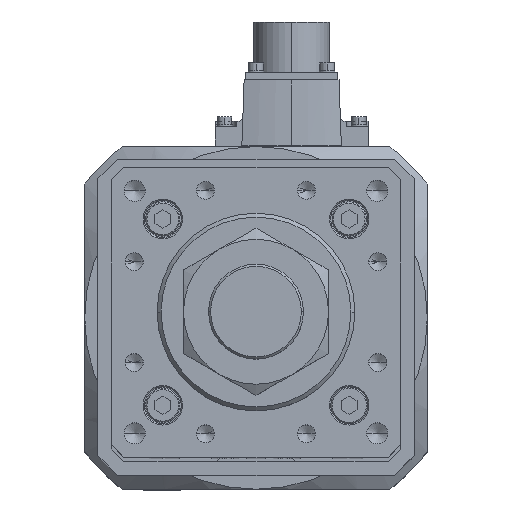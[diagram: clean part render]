
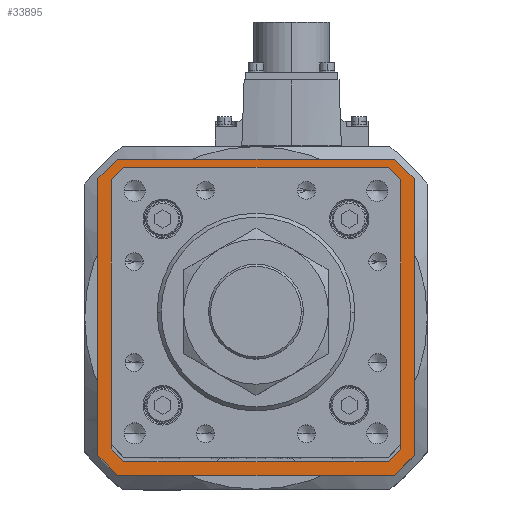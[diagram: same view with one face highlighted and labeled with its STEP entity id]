
A CAD part, top view. The second image highlights one B-rep face of the part: STEP entity #33895.
In plain terms, the highlighted planar face has unit normal (0, 0, 1).
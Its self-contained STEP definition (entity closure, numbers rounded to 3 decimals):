
#10 = CARTESIAN_POINT ( 'NONE',  ( -52.5, -60., -119. ) ) ;
#185 = CARTESIAN_POINT ( 'NONE',  ( 60., 52.5, -119. ) ) ;
#231 = VECTOR ( 'NONE', #893, 1000. ) ;
#893 = DIRECTION ( 'NONE',  ( 0., -1., 0. ) ) ;
#1389 = ORIENTED_EDGE ( 'NONE', *, *, #27819, .F. ) ;
#1401 = VECTOR ( 'NONE', #16453, 1000. ) ;
#1575 = ORIENTED_EDGE ( 'NONE', *, *, #20521, .T. ) ;
#1604 = VERTEX_POINT ( 'NONE', #18039 ) ;
#1804 = VECTOR ( 'NONE', #20551, 1000. ) ;
#2640 = DIRECTION ( 'NONE',  ( 0., 0., 1. ) ) ;
#2701 = ORIENTED_EDGE ( 'NONE', *, *, #14781, .F. ) ;
#2917 = EDGE_CURVE ( 'NONE', #12410, #21367, #35838, .T. ) ;
#3382 = LINE ( 'NONE', #9049, #19336 ) ;
#3602 = CARTESIAN_POINT ( 'NONE',  ( -52.5, -60., -119. ) ) ;
#3763 = VECTOR ( 'NONE', #22323, 1000. ) ;
#3859 = EDGE_CURVE ( 'NONE', #21851, #7255, #33544, .T. ) ;
#4597 = VERTEX_POINT ( 'NONE', #13676 ) ;
#5169 = ORIENTED_EDGE ( 'NONE', *, *, #13456, .T. ) ;
#5704 = EDGE_CURVE ( 'NONE', #1604, #20873, #11191, .T. ) ;
#5928 = LINE ( 'NONE', #185, #1804 ) ;
#5961 = LINE ( 'NONE', #13392, #13232 ) ;
#6118 = CARTESIAN_POINT ( 'NONE',  ( 49.593, -53.5, -119. ) ) ;
#6962 = DIRECTION ( 'NONE',  ( 0.707, 0.707, 0. ) ) ;
#7255 = VERTEX_POINT ( 'NONE', #26712 ) ;
#7623 = EDGE_CURVE ( 'NONE', #21077, #37510, #17194, .T. ) ;
#7757 = ORIENTED_EDGE ( 'NONE', *, *, #15897, .T. ) ;
#7784 = ORIENTED_EDGE ( 'NONE', *, *, #33064, .T. ) ;
#7883 = CARTESIAN_POINT ( 'NONE',  ( -53.5, 49.593, -119. ) ) ;
#8142 = VECTOR ( 'NONE', #6962, 1000. ) ;
#8527 = DIRECTION ( 'NONE',  ( 1., 0., 0. ) ) ;
#8604 = CARTESIAN_POINT ( 'NONE',  ( 53.5, -49.593, -119. ) ) ;
#8617 = VECTOR ( 'NONE', #30791, 1000. ) ;
#9049 = CARTESIAN_POINT ( 'NONE',  ( -53.646, -49.446, -119. ) ) ;
#9122 = CARTESIAN_POINT ( 'NONE',  ( 52.5, 60., -119. ) ) ;
#9708 = CARTESIAN_POINT ( 'NONE',  ( 53.5, -49.8, -119. ) ) ;
#10031 = VERTEX_POINT ( 'NONE', #10 ) ;
#10147 = LINE ( 'NONE', #15070, #12429 ) ;
#10480 = ORIENTED_EDGE ( 'NONE', *, *, #23909, .T. ) ;
#10643 = VECTOR ( 'NONE', #28301, 1000. ) ;
#11191 = LINE ( 'NONE', #9708, #231 ) ;
#12410 = VERTEX_POINT ( 'NONE', #26674 ) ;
#12429 = VECTOR ( 'NONE', #23922, 1000. ) ;
#12481 = VERTEX_POINT ( 'NONE', #32771 ) ;
#12556 = CARTESIAN_POINT ( 'NONE',  ( -53.5, 49.8, -119. ) ) ;
#12682 = CARTESIAN_POINT ( 'NONE',  ( 60., 52.5, -119. ) ) ;
#13232 = VECTOR ( 'NONE', #33660, 1000. ) ;
#13392 = CARTESIAN_POINT ( 'NONE',  ( 53.646, 49.446, -119. ) ) ;
#13456 = EDGE_CURVE ( 'NONE', #35325, #17507, #10147, .T. ) ;
#13561 = LINE ( 'NONE', #3602, #23993 ) ;
#13626 = EDGE_CURVE ( 'NONE', #7255, #34376, #19696, .T. ) ;
#13676 = CARTESIAN_POINT ( 'NONE',  ( 49.593, 53.5, -119. ) ) ;
#13961 = CARTESIAN_POINT ( 'NONE',  ( -49.593, -53.5, -119. ) ) ;
#14154 = CARTESIAN_POINT ( 'NONE',  ( -60., -52.5, -119. ) ) ;
#14781 = EDGE_CURVE ( 'NONE', #21367, #10031, #34813, .T. ) ;
#15070 = CARTESIAN_POINT ( 'NONE',  ( -49.8, -53.5, -119. ) ) ;
#15567 = LINE ( 'NONE', #33797, #1401 ) ;
#15718 = CARTESIAN_POINT ( 'NONE',  ( 60., 52.5, -119. ) ) ;
#15897 = EDGE_CURVE ( 'NONE', #17507, #12481, #3382, .T. ) ;
#16227 = CARTESIAN_POINT ( 'NONE',  ( 60., -52.5, -119. ) ) ;
#16453 = DIRECTION ( 'NONE',  ( -0.707, -0.707, 0. ) ) ;
#16533 = CARTESIAN_POINT ( 'NONE',  ( -52.5, 60., -119. ) ) ;
#17173 = CARTESIAN_POINT ( 'NONE',  ( -60., 52.5, -119. ) ) ;
#17181 = VECTOR ( 'NONE', #19466, 1000. ) ;
#17194 = LINE ( 'NONE', #15718, #26655 ) ;
#17507 = VERTEX_POINT ( 'NONE', #13961 ) ;
#18039 = CARTESIAN_POINT ( 'NONE',  ( 53.5, 49.593, -119. ) ) ;
#18131 = DIRECTION ( 'NONE',  ( 0., 1., 0. ) ) ;
#18349 = LINE ( 'NONE', #23335, #10643 ) ;
#18470 = EDGE_CURVE ( 'NONE', #4597, #1604, #5961, .T. ) ;
#19231 = ORIENTED_EDGE ( 'NONE', *, *, #3859, .F. ) ;
#19336 = VECTOR ( 'NONE', #26392, 1000. ) ;
#19466 = DIRECTION ( 'NONE',  ( 0., 1., 0. ) ) ;
#19696 = LINE ( 'NONE', #16533, #3763 ) ;
#19748 = CARTESIAN_POINT ( 'NONE',  ( 52.5, -60., -119. ) ) ;
#20464 = ORIENTED_EDGE ( 'NONE', *, *, #32130, .T. ) ;
#20521 = EDGE_CURVE ( 'NONE', #26261, #24083, #31718, .T. ) ;
#20551 = DIRECTION ( 'NONE',  ( 0., -1., 0. ) ) ;
#20687 = EDGE_LOOP ( 'NONE', ( #21352, #22715, #19231, #25708, #2701, #23229, #1389, #33269 ) ) ;
#20697 = VECTOR ( 'NONE', #23276, 1000. ) ;
#20873 = VERTEX_POINT ( 'NONE', #8604 ) ;
#21077 = VERTEX_POINT ( 'NONE', #9122 ) ;
#21280 = DIRECTION ( 'NONE',  ( 0.707, -0.707, 0. ) ) ;
#21352 = ORIENTED_EDGE ( 'NONE', *, *, #25313, .F. ) ;
#21367 = VERTEX_POINT ( 'NONE', #19748 ) ;
#21419 = CARTESIAN_POINT ( 'NONE',  ( -49.446, 53.646, -119. ) ) ;
#21785 = CARTESIAN_POINT ( 'NONE',  ( 52.5, -60., -119. ) ) ;
#21851 = VERTEX_POINT ( 'NONE', #14154 ) ;
#22323 = DIRECTION ( 'NONE',  ( 0.707, 0.707, 0. ) ) ;
#22715 = ORIENTED_EDGE ( 'NONE', *, *, #13626, .F. ) ;
#22932 = AXIS2_PLACEMENT_3D ( 'NONE', #31873, #2640, #8527 ) ;
#23229 = ORIENTED_EDGE ( 'NONE', *, *, #2917, .F. ) ;
#23276 = DIRECTION ( 'NONE',  ( 1., 0., 0. ) ) ;
#23335 = CARTESIAN_POINT ( 'NONE',  ( 49.8, 53.5, -119. ) ) ;
#23909 = EDGE_CURVE ( 'NONE', #12481, #26261, #26197, .T. ) ;
#23922 = DIRECTION ( 'NONE',  ( -1., 0., 0. ) ) ;
#23993 = VECTOR ( 'NONE', #32923, 1000. ) ;
#24083 = VERTEX_POINT ( 'NONE', #33207 ) ;
#24738 = ORIENTED_EDGE ( 'NONE', *, *, #18470, .T. ) ;
#24974 = DIRECTION ( 'NONE',  ( -1., 0., 0. ) ) ;
#25313 = EDGE_CURVE ( 'NONE', #34376, #21077, #32910, .T. ) ;
#25708 = ORIENTED_EDGE ( 'NONE', *, *, #28343, .F. ) ;
#26197 = LINE ( 'NONE', #12556, #27583 ) ;
#26261 = VERTEX_POINT ( 'NONE', #7883 ) ;
#26392 = DIRECTION ( 'NONE',  ( -0.707, 0.707, 0. ) ) ;
#26655 = VECTOR ( 'NONE', #21280, 1000. ) ;
#26674 = CARTESIAN_POINT ( 'NONE',  ( 60., -52.5, -119. ) ) ;
#26712 = CARTESIAN_POINT ( 'NONE',  ( -60., 52.5, -119. ) ) ;
#27583 = VECTOR ( 'NONE', #18131, 1000. ) ;
#27819 = EDGE_CURVE ( 'NONE', #37510, #12410, #5928, .T. ) ;
#28301 = DIRECTION ( 'NONE',  ( 1., 0., 0. ) ) ;
#28343 = EDGE_CURVE ( 'NONE', #10031, #21851, #13561, .T. ) ;
#29046 = PLANE ( 'NONE',  #22932 ) ;
#29828 = VECTOR ( 'NONE', #24974, 1000. ) ;
#30666 = CARTESIAN_POINT ( 'NONE',  ( -52.5, 60., -119. ) ) ;
#30791 = DIRECTION ( 'NONE',  ( -0.707, -0.707, 0. ) ) ;
#31183 = ORIENTED_EDGE ( 'NONE', *, *, #5704, .T. ) ;
#31718 = LINE ( 'NONE', #21419, #8142 ) ;
#31873 = CARTESIAN_POINT ( 'NONE',  ( 0., 0., -119. ) ) ;
#31934 = CARTESIAN_POINT ( 'NONE',  ( 52.5, 60., -119. ) ) ;
#32115 = EDGE_LOOP ( 'NONE', ( #20464, #24738, #31183, #7784, #5169, #7757, #10480, #1575 ) ) ;
#32130 = EDGE_CURVE ( 'NONE', #24083, #4597, #18349, .T. ) ;
#32771 = CARTESIAN_POINT ( 'NONE',  ( -53.5, -49.593, -119. ) ) ;
#32910 = LINE ( 'NONE', #31934, #20697 ) ;
#32923 = DIRECTION ( 'NONE',  ( -0.707, 0.707, 0. ) ) ;
#33064 = EDGE_CURVE ( 'NONE', #20873, #35325, #15567, .T. ) ;
#33207 = CARTESIAN_POINT ( 'NONE',  ( -49.593, 53.5, -119. ) ) ;
#33269 = ORIENTED_EDGE ( 'NONE', *, *, #7623, .F. ) ;
#33544 = LINE ( 'NONE', #17173, #17181 ) ;
#33660 = DIRECTION ( 'NONE',  ( 0.707, -0.707, 0. ) ) ;
#33797 = CARTESIAN_POINT ( 'NONE',  ( 49.446, -53.646, -119. ) ) ;
#33895 = ADVANCED_FACE ( 'NONE', ( #34491, #35414 ), #29046, .T. ) ;
#34376 = VERTEX_POINT ( 'NONE', #30666 ) ;
#34491 = FACE_BOUND ( 'NONE', #32115, .T. ) ;
#34813 = LINE ( 'NONE', #21785, #29828 ) ;
#35325 = VERTEX_POINT ( 'NONE', #6118 ) ;
#35414 = FACE_OUTER_BOUND ( 'NONE', #20687, .T. ) ;
#35838 = LINE ( 'NONE', #16227, #8617 ) ;
#37510 = VERTEX_POINT ( 'NONE', #12682 ) ;
